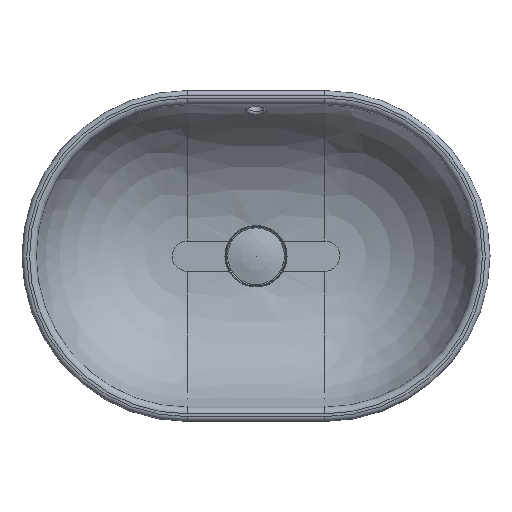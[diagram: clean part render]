
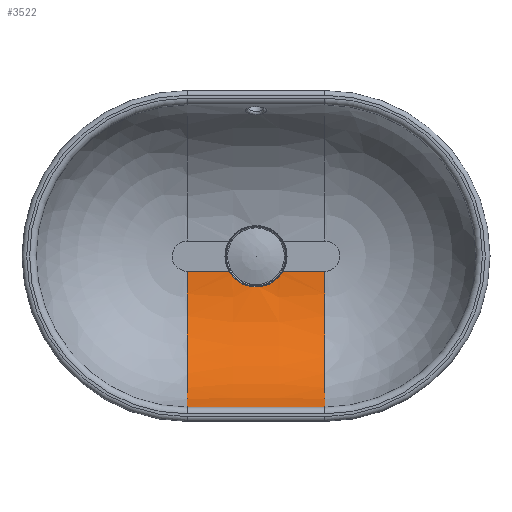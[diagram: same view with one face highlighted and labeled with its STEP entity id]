
A CAD part, top view. The second image highlights one B-rep face of the part: STEP entity #3522.
In plain terms, the highlighted free-form (B-spline) face has degree [3, 3] with [10, 4] control points.
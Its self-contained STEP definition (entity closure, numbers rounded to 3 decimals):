
#2654=CARTESIAN_POINT('',(238.58,-170.898,-116.268));
#2655=VERTEX_POINT('',#2654);
#2842=CARTESIAN_POINT('',(181.314,-170.898,-116.268));
#2843=VERTEX_POINT('',#2842);
#3025=CARTESIAN_POINT('',(181.312,-170.899,-116.268));
#3026=CARTESIAN_POINT('',(181.716,-171.602,-116.268));
#3027=CARTESIAN_POINT('',(182.579,-172.975,-116.258));
#3028=CARTESIAN_POINT('',(184.03,-174.933,-116.218));
#3029=CARTESIAN_POINT('',(185.629,-176.777,-116.156));
#3030=CARTESIAN_POINT('',(187.942,-179.07,-116.052));
#3031=CARTESIAN_POINT('',(191.183,-181.627,-115.892));
#3032=CARTESIAN_POINT('',(195.026,-183.808,-115.715));
#3033=CARTESIAN_POINT('',(198.053,-185.062,-115.598));
#3034=CARTESIAN_POINT('',(201.189,-186.099,-115.497));
#3035=CARTESIAN_POINT('',(204.439,-186.829,-115.42));
#3036=CARTESIAN_POINT('',(208.291,-187.205,-115.379));
#3037=CARTESIAN_POINT('',(211.582,-187.206,-115.379));
#3038=CARTESIAN_POINT('',(215.439,-186.832,-115.42));
#3039=CARTESIAN_POINT('',(218.96,-186.042,-115.503));
#3040=CARTESIAN_POINT('',(222.075,-184.971,-115.607));
#3041=CARTESIAN_POINT('',(225.092,-183.68,-115.725));
#3042=CARTESIAN_POINT('',(228.699,-181.635,-115.892));
#3043=CARTESIAN_POINT('',(231.938,-179.083,-116.052));
#3044=CARTESIAN_POINT('',(234.251,-176.793,-116.156));
#3045=CARTESIAN_POINT('',(235.857,-174.942,-116.217));
#3046=CARTESIAN_POINT('',(237.314,-172.976,-116.258));
#3047=CARTESIAN_POINT('',(238.178,-171.602,-116.268));
#3048=CARTESIAN_POINT('',(238.582,-170.899,-116.268));
#3049=B_SPLINE_CURVE_WITH_KNOTS('',3,(#3025,#3026,#3027,#3028,#3029,#3030,#3031,#3032,#3033,#3034,#3035,#3036,#3037,#3038,#3039,#3040,#3041,#3042,#3043,#3044,#3045,#3046,#3047,#3048),.UNSPECIFIED.,.F.,.U.,(4,1,1,1,1,1,1,1,1,1,1,1,1,1,1,1,1,1,1,1,1,4),(-6.859,-6.612,-6.365,-6.119,-5.872,-5.379,-4.885,-4.557,-4.392,-3.899,-3.57,-3.241,-2.912,-2.419,-2.172,-1.926,-1.432,-0.939,-0.692,-0.446,-0.199,0.048),.UNSPECIFIED.);
#3050=EDGE_CURVE('',#2843,#2655,#3049,.T.);
#3433=CARTESIAN_POINT('',(282.447,-314.89,-8.295));
#3434=CARTESIAN_POINT('',(282.447,-312.315,-17.119));
#3435=CARTESIAN_POINT('',(282.447,-305.538,-34.29));
#3436=CARTESIAN_POINT('',(282.447,-290.835,-57.756));
#3437=CARTESIAN_POINT('',(282.447,-272.09,-78.139));
#3438=CARTESIAN_POINT('',(282.447,-249.936,-94.751));
#3439=CARTESIAN_POINT('',(282.447,-225.117,-107.034));
#3440=CARTESIAN_POINT('',(282.447,-198.472,-114.574));
#3441=CARTESIAN_POINT('',(282.447,-180.089,-116.268));
#3442=CARTESIAN_POINT('',(282.447,-170.898,-116.268));
#3443=CARTESIAN_POINT('',(234.114,-314.89,-8.295));
#3444=CARTESIAN_POINT('',(234.114,-312.315,-17.119));
#3445=CARTESIAN_POINT('',(234.114,-305.538,-34.29));
#3446=CARTESIAN_POINT('',(234.114,-290.835,-57.756));
#3447=CARTESIAN_POINT('',(234.114,-272.09,-78.139));
#3448=CARTESIAN_POINT('',(234.114,-249.936,-94.751));
#3449=CARTESIAN_POINT('',(234.114,-225.117,-107.034));
#3450=CARTESIAN_POINT('',(234.114,-198.472,-114.574));
#3451=CARTESIAN_POINT('',(234.114,-180.089,-116.268));
#3452=CARTESIAN_POINT('',(234.114,-170.898,-116.268));
#3453=CARTESIAN_POINT('',(185.78,-314.89,-8.295));
#3454=CARTESIAN_POINT('',(185.78,-312.315,-17.119));
#3455=CARTESIAN_POINT('',(185.78,-305.538,-34.29));
#3456=CARTESIAN_POINT('',(185.78,-290.835,-57.756));
#3457=CARTESIAN_POINT('',(185.78,-272.09,-78.139));
#3458=CARTESIAN_POINT('',(185.78,-249.936,-94.751));
#3459=CARTESIAN_POINT('',(185.78,-225.117,-107.034));
#3460=CARTESIAN_POINT('',(185.78,-198.472,-114.574));
#3461=CARTESIAN_POINT('',(185.78,-180.089,-116.268));
#3462=CARTESIAN_POINT('',(185.78,-170.898,-116.268));
#3463=CARTESIAN_POINT('',(137.447,-314.89,-8.295));
#3464=CARTESIAN_POINT('',(137.447,-312.315,-17.119));
#3465=CARTESIAN_POINT('',(137.447,-305.538,-34.29));
#3466=CARTESIAN_POINT('',(137.447,-290.835,-57.756));
#3467=CARTESIAN_POINT('',(137.447,-272.09,-78.139));
#3468=CARTESIAN_POINT('',(137.447,-249.936,-94.751));
#3469=CARTESIAN_POINT('',(137.447,-225.117,-107.034));
#3470=CARTESIAN_POINT('',(137.447,-198.472,-114.574));
#3471=CARTESIAN_POINT('',(137.447,-180.089,-116.268));
#3472=CARTESIAN_POINT('',(137.447,-170.898,-116.268));
#3473=B_SPLINE_SURFACE_WITH_KNOTS('',3,3,((#3433,#3443,#3453,#3463),(#3434,#3444,#3454,#3464),(#3435,#3445,#3455,#3465),(#3436,#3446,#3456,#3466),(#3437,#3447,#3457,#3467),(#3438,#3448,#3458,#3468),(#3439,#3449,#3459,#3469),(#3440,#3450,#3460,#3470),(#3441,#3451,#3461,#3471),(#3442,#3452,#3462,#3472)),.UNSPECIFIED.,.F.,.F.,.U.,(4,1,1,1,1,1,1,4),(4,4),(0.0,0.143,0.286,0.429,0.571,0.714,0.857,1.0),(-14.5,0.0),.UNSPECIFIED.);
#3474=ORIENTED_EDGE('',*,*,#3050,.F.);
#3475=CARTESIAN_POINT('',(137.447,-170.898,-116.268));
#3476=VERTEX_POINT('',#3475);
#3477=CARTESIAN_POINT('',(181.314,-170.898,-116.268));
#3478=CARTESIAN_POINT('',(166.692,-170.898,-116.268));
#3479=CARTESIAN_POINT('',(152.069,-170.898,-116.268));
#3480=CARTESIAN_POINT('',(137.447,-170.898,-116.268));
#3481=B_SPLINE_CURVE_WITH_KNOTS('',3,(#3477,#3478,#3479,#3480),.UNSPECIFIED.,.F.,.U.,(4,4),(-4.387,0.0),.UNSPECIFIED.);
#3482=EDGE_CURVE('',#2843,#3476,#3481,.T.);
#3483=ORIENTED_EDGE('',*,*,#3482,.T.);
#3484=CARTESIAN_POINT('',(137.447,-314.89,-8.295));
#3485=VERTEX_POINT('',#3484);
#3486=CARTESIAN_POINT('',(137.447,-170.898,33.732));
#3487=DIRECTION('',(1.0,0.,0.));
#3488=DIRECTION('',(0.,-0.96,-0.28));
#3489=AXIS2_PLACEMENT_3D('',#3486,#3487,#3488);
#3490=CIRCLE('',#3489,150.);
#3491=EDGE_CURVE('',#3485,#3476,#3490,.T.);
#3492=ORIENTED_EDGE('',*,*,#3491,.F.);
#3493=CARTESIAN_POINT('',(282.447,-314.89,-8.295));
#3494=VERTEX_POINT('',#3493);
#3495=CARTESIAN_POINT('',(282.447,-314.89,-8.295));
#3496=CARTESIAN_POINT('',(258.523,-314.89,-8.295));
#3497=CARTESIAN_POINT('',(234.598,-314.89,-8.295));
#3498=CARTESIAN_POINT('',(186.265,-314.89,-8.295));
#3499=CARTESIAN_POINT('',(161.856,-314.89,-8.295));
#3500=CARTESIAN_POINT('',(137.447,-314.89,-8.295));
#3501=B_SPLINE_CURVE_WITH_KNOTS('',3,(#3495,#3496,#3497,#3498,#3499,#3500),.UNSPECIFIED.,.F.,.U.,(4,2,4),(-16.114,-8.937,-1.614),.UNSPECIFIED.);
#3502=EDGE_CURVE('',#3485,#3494,#3501,.F.);
#3503=ORIENTED_EDGE('',*,*,#3502,.T.);
#3504=CARTESIAN_POINT('',(282.447,-170.898,-116.268));
#3505=VERTEX_POINT('',#3504);
#3506=CARTESIAN_POINT('',(282.447,-170.898,33.732));
#3507=DIRECTION('',(-1.0,0.,0.0));
#3508=DIRECTION('',(0.0,0.0,-1.0));
#3509=AXIS2_PLACEMENT_3D('',#3506,#3507,#3508);
#3510=CIRCLE('',#3509,150.);
#3511=EDGE_CURVE('',#3505,#3494,#3510,.T.);
#3512=ORIENTED_EDGE('',*,*,#3511,.F.);
#3513=CARTESIAN_POINT('',(282.447,-170.898,-116.268));
#3514=CARTESIAN_POINT('',(267.826,-170.898,-116.268));
#3515=CARTESIAN_POINT('',(253.205,-170.898,-116.268));
#3516=CARTESIAN_POINT('',(238.583,-170.898,-116.268));
#3517=B_SPLINE_CURVE_WITH_KNOTS('',3,(#3513,#3514,#3515,#3516),.UNSPECIFIED.,.F.,.U.,(4,4),(-14.5,-10.114),.UNSPECIFIED.);
#3518=EDGE_CURVE('',#3505,#2655,#3517,.T.);
#3519=ORIENTED_EDGE('',*,*,#3518,.T.);
#3520=EDGE_LOOP('',(#3474,#3483,#3492,#3503,#3512,#3519));
#3521=FACE_OUTER_BOUND('',#3520,.T.);
#3522=ADVANCED_FACE('',(#3521),#3473,.T.);
